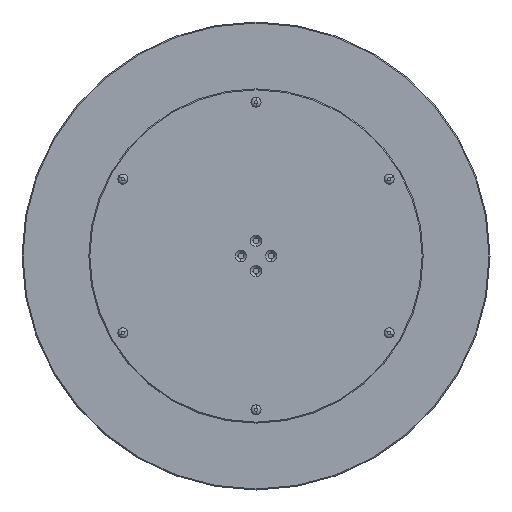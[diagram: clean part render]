
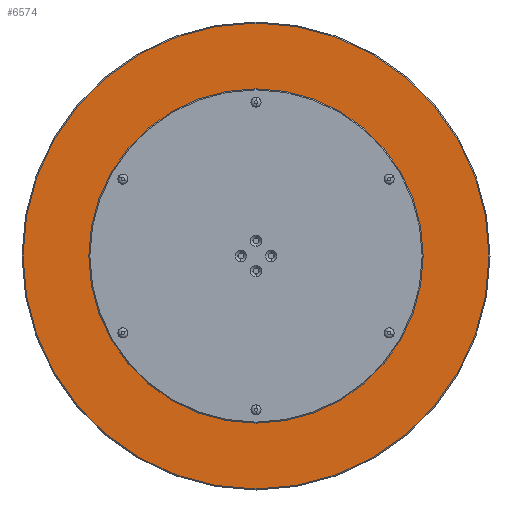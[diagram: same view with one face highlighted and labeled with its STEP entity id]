
A CAD part, front view. The second image highlights one B-rep face of the part: STEP entity #6574.
In plain terms, the highlighted planar face has unit normal (0, -1, 0).
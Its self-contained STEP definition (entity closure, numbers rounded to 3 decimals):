
#72 = ORIENTED_EDGE ( 'NONE', *, *, #4957, .F. ) ;
#77 = AXIS2_PLACEMENT_3D ( 'NONE', #5679, #921, #967 ) ;
#182 = PLANE ( 'NONE',  #6485 ) ;
#297 = CARTESIAN_POINT ( 'NONE',  ( -152.5, 0., 167.5 ) ) ;
#305 = ORIENTED_EDGE ( 'NONE', *, *, #6434, .T. ) ;
#337 = VERTEX_POINT ( 'NONE', #6282 ) ;
#463 = DIRECTION ( 'NONE',  ( 0., 1., 0. ) ) ;
#524 = ORIENTED_EDGE ( 'NONE', *, *, #1651, .T. ) ;
#582 = VECTOR ( 'NONE', #1140, 1000. ) ;
#738 = AXIS2_PLACEMENT_3D ( 'NONE', #1768, #1867, #3972 ) ;
#817 = VERTEX_POINT ( 'NONE', #2787 ) ;
#921 = DIRECTION ( 'NONE',  ( 0., 1., 0. ) ) ;
#937 = VERTEX_POINT ( 'NONE', #4308 ) ;
#967 = DIRECTION ( 'NONE',  ( 0., 0., 1. ) ) ;
#1140 = DIRECTION ( 'NONE',  ( 0., 0., -1. ) ) ;
#1353 = ORIENTED_EDGE ( 'NONE', *, *, #4880, .T. ) ;
#1425 = VERTEX_POINT ( 'NONE', #297 ) ;
#1438 = CARTESIAN_POINT ( 'NONE',  ( 167.5, 0., 167.5 ) ) ;
#1455 = DIRECTION ( 'NONE',  ( 0., 0., 1. ) ) ;
#1530 = EDGE_CURVE ( 'NONE', #937, #337, #1749, .T. ) ;
#1536 = DIRECTION ( 'NONE',  ( 0., 1., 0. ) ) ;
#1564 = DIRECTION ( 'NONE',  ( 0., 0., 1. ) ) ;
#1622 = LINE ( 'NONE', #4175, #5278 ) ;
#1651 = EDGE_CURVE ( 'NONE', #2223, #4514, #1856, .T. ) ;
#1749 = CIRCLE ( 'NONE', #5728, 15. ) ;
#1764 = FACE_OUTER_BOUND ( 'NONE', #4402, .T. ) ;
#1768 = CARTESIAN_POINT ( 'NONE',  ( 0., 0., 0. ) ) ;
#1775 = ORIENTED_EDGE ( 'NONE', *, *, #2260, .F. ) ;
#1813 = VERTEX_POINT ( 'NONE', #2799 ) ;
#1856 = CIRCLE ( 'NONE', #77, 15. ) ;
#1867 = DIRECTION ( 'NONE',  ( 0., -1., 0. ) ) ;
#1878 = VERTEX_POINT ( 'NONE', #4529 ) ;
#1942 = EDGE_CURVE ( 'NONE', #2219, #1813, #5405, .T. ) ;
#1991 = ORIENTED_EDGE ( 'NONE', *, *, #2480, .F. ) ;
#2063 = VECTOR ( 'NONE', #4062, 1000. ) ;
#2096 = DIRECTION ( 'NONE',  ( 0., 0., 1. ) ) ;
#2219 = VERTEX_POINT ( 'NONE', #6305 ) ;
#2223 = VERTEX_POINT ( 'NONE', #3627 ) ;
#2260 = EDGE_CURVE ( 'NONE', #1878, #4514, #1622, .T. ) ;
#2283 = DIRECTION ( 'NONE',  ( 0., 1., 0. ) ) ;
#2460 = DIRECTION ( 'NONE',  ( 0., 1., 0. ) ) ;
#2478 = CARTESIAN_POINT ( 'NONE',  ( -167.5, 0., 152.5 ) ) ;
#2480 = EDGE_CURVE ( 'NONE', #937, #817, #3113, .T. ) ;
#2516 = EDGE_CURVE ( 'NONE', #4404, #1425, #5364, .T. ) ;
#2589 = ORIENTED_EDGE ( 'NONE', *, *, #1530, .T. ) ;
#2646 = CARTESIAN_POINT ( 'NONE',  ( 0., 0., 0. ) ) ;
#2781 = EDGE_CURVE ( 'NONE', #2223, #1425, #5190, .T. ) ;
#2787 = CARTESIAN_POINT ( 'NONE',  ( 152.5, 0., -167.5 ) ) ;
#2799 = CARTESIAN_POINT ( 'NONE',  ( 0., 0., 348.5 ) ) ;
#3097 = CARTESIAN_POINT ( 'NONE',  ( 167.5, 0., 152.5 ) ) ;
#3113 = LINE ( 'NONE', #4642, #4952 ) ;
#3127 = AXIS2_PLACEMENT_3D ( 'NONE', #2646, #6321, #4786 ) ;
#3192 = CARTESIAN_POINT ( 'NONE',  ( 0., 0., 0. ) ) ;
#3250 = AXIS2_PLACEMENT_3D ( 'NONE', #5764, #1536, #2096 ) ;
#3392 = EDGE_LOOP ( 'NONE', ( #1991, #2589, #72, #3644, #5922, #524, #1775, #305 ) ) ;
#3627 = CARTESIAN_POINT ( 'NONE',  ( 152.5, 0., 167.5 ) ) ;
#3636 = CARTESIAN_POINT ( 'NONE',  ( -152.5, 0., -152.5 ) ) ;
#3644 = ORIENTED_EDGE ( 'NONE', *, *, #2516, .T. ) ;
#3972 = DIRECTION ( 'NONE',  ( 0., 0., 1. ) ) ;
#4062 = DIRECTION ( 'NONE',  ( -1., 0., 0. ) ) ;
#4175 = CARTESIAN_POINT ( 'NONE',  ( 167.5, 0., -167.5 ) ) ;
#4185 = DIRECTION ( 'NONE',  ( 1., 0., 0. ) ) ;
#4308 = CARTESIAN_POINT ( 'NONE',  ( -152.5, 0., -167.5 ) ) ;
#4402 = EDGE_LOOP ( 'NONE', ( #1353, #4959 ) ) ;
#4404 = VERTEX_POINT ( 'NONE', #2478 ) ;
#4514 = VERTEX_POINT ( 'NONE', #3097 ) ;
#4529 = CARTESIAN_POINT ( 'NONE',  ( 167.5, 0., -152.5 ) ) ;
#4642 = CARTESIAN_POINT ( 'NONE',  ( 167.5, 0., -167.5 ) ) ;
#4678 = CIRCLE ( 'NONE', #3127, 348.5 ) ;
#4786 = DIRECTION ( 'NONE',  ( 0., 0., 1. ) ) ;
#4880 = EDGE_CURVE ( 'NONE', #1813, #2219, #4678, .T. ) ;
#4924 = AXIS2_PLACEMENT_3D ( 'NONE', #5095, #2460, #1455 ) ;
#4952 = VECTOR ( 'NONE', #4185, 1000. ) ;
#4957 = EDGE_CURVE ( 'NONE', #4404, #337, #5768, .T. ) ;
#4959 = ORIENTED_EDGE ( 'NONE', *, *, #1942, .T. ) ;
#5095 = CARTESIAN_POINT ( 'NONE',  ( 152.5, 0., -152.5 ) ) ;
#5190 = LINE ( 'NONE', #1438, #2063 ) ;
#5278 = VECTOR ( 'NONE', #5301, 1000. ) ;
#5301 = DIRECTION ( 'NONE',  ( 0., 0., 1. ) ) ;
#5364 = CIRCLE ( 'NONE', #3250, 15. ) ;
#5405 = CIRCLE ( 'NONE', #738, 348.5 ) ;
#5467 = CIRCLE ( 'NONE', #4924, 15. ) ;
#5679 = CARTESIAN_POINT ( 'NONE',  ( 152.5, 0., 152.5 ) ) ;
#5728 = AXIS2_PLACEMENT_3D ( 'NONE', #3636, #463, #1564 ) ;
#5764 = CARTESIAN_POINT ( 'NONE',  ( -152.5, 0., 152.5 ) ) ;
#5768 = LINE ( 'NONE', #5797, #582 ) ;
#5797 = CARTESIAN_POINT ( 'NONE',  ( -167.5, 0., -167.5 ) ) ;
#5922 = ORIENTED_EDGE ( 'NONE', *, *, #2781, .F. ) ;
#5954 = DIRECTION ( 'NONE',  ( 0., 0., 1. ) ) ;
#6282 = CARTESIAN_POINT ( 'NONE',  ( -167.5, 0., -152.5 ) ) ;
#6305 = CARTESIAN_POINT ( 'NONE',  ( 0., 0., -348.5 ) ) ;
#6321 = DIRECTION ( 'NONE',  ( 0., -1., 0. ) ) ;
#6434 = EDGE_CURVE ( 'NONE', #1878, #817, #5467, .T. ) ;
#6485 = AXIS2_PLACEMENT_3D ( 'NONE', #3192, #2283, #5954 ) ;
#6574 = ADVANCED_FACE ( 'NONE', ( #6842, #1764 ), #182, .F. ) ;
#6842 = FACE_BOUND ( 'NONE', #3392, .T. ) ;
